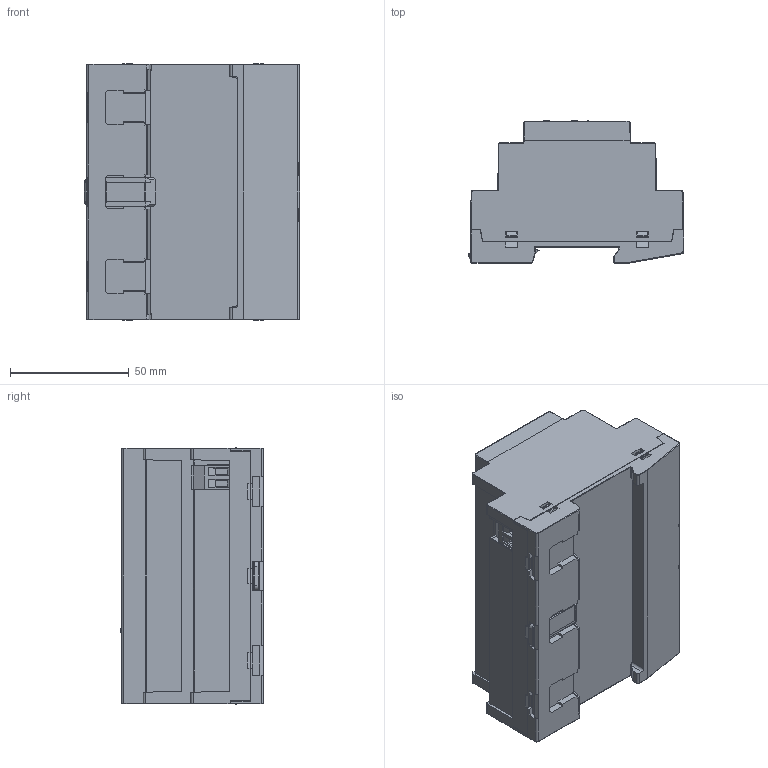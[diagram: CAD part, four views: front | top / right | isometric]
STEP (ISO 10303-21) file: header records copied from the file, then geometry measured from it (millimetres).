
FILE_DESCRIPTION(/* description */ (''),/* implementation_level */ '2;1');
FILE_NAME(/* name */ 'KNX_IO_522_secure.stp',/* time_stamp */ '2025-10-29T11:30:26+01:00',/* author */ (''),/* organization */ (''),/* preprocessor_version */ 'ST-DEVELOPER v17.2',/* originating_system */ 'Autodesk Inventor 2019',/* authorisation */ '');
FILE_SCHEMA (('AUTOMOTIVE_DESIGN { 1 0 10303 214 3 1 1 }'));
Products named in the file (1): KNX_IO_522_secure
Bounding box: 90.7 x 60.2 x 108 mm (x, y, z)
Volume: 431537.2 mm3; surface area: 52021.6 mm2
Topology: 1 solids, 18 shells, 2542 faces, 6935 edges, 4496 vertices
Faces by surface type: plane 2195, cylinder 272, sphere 35, torus 20, cone 12, bspline 8
Full cylindrical faces by diameter (mm): 1.1 x2, 2 x14, 2.8 x1, 3 x1, 3.96 x12, 4 x14
Entity records: 81970 total; most frequent: CARTESIAN_POINT 14652, ORIENTED_EDGE 13852, DIRECTION 12678, EDGE_CURVE 6926, LINE 6176, VECTOR 6176, VERTEX_POINT 4496, AXIS2_PLACEMENT_3D 3251
